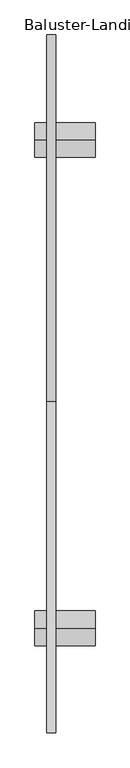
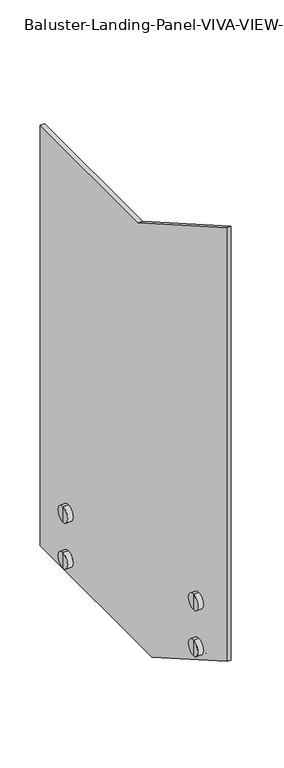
"""IFC4 building model written with IfcOpenShell, lengths in millimetres: railing geometry, Baluster-Landing-Panel-VIVA-VIEW-Upper : Standard_Glass."""

from ifc_helpers import new_model, si_unit, frame, origin, place, context, project, spatial, polyline, circle_curve, outline, extrude, source, transform, mapped, element, save
from ifc_brep_helpers import plane_surface, cylinder_surface, advanced_brep


def baluster_landing_panel_viva_view_upper_standard_glass_68725872(model_context):
    return source(origin(), model_context, "Body", "SolidModel", [
        advanced_brep(
        [(14.1452292, 152.4, -161.189208), (14.1452292, 152.4, -135.789208), (14.1452292, 152.4, -110.389208), (31.6077292, 152.4, -161.189208), (31.6077292, 152.4, -110.389208), (31.6077292, 152.4, -141.504208), (31.6077292, 152.4, -130.074208), (44.3077292, 152.4, -141.504208), (44.3077292, 152.4, -130.074208), (44.3077292, 152.4, -161.189208), (44.3077292, 152.4, -110.389208), (101.4575823, 152.4, -161.189208), (101.4575823, 152.4, -110.389208), (101.4575823, 152.4, -135.789208)],
        [
            (0, 1),
            (1, 2),
            (2, 0, circle_curve(frame((14.1452292, 152.4, -135.789208), z_axis=(-1.0, 0.0, 0.0), x_axis=(0.0, 0.0, 1.0)), 25.4)),
            (0, 2, circle_curve(frame((14.1452292, 152.4, -135.789208), z_axis=(-1.0, 0.0, 0.0), x_axis=(0.0, 0.0, 1.0)), 25.4)),
            (3, 0),
            (2, 4),
            (4, 3, circle_curve(frame((31.6077292, 152.4, -135.789208), z_axis=(-1.0, 0.0, 0.0), x_axis=(0.0, 0.0, 1.0)), 25.4)),
            (3, 4, circle_curve(frame((31.6077292, 152.4, -135.789208), z_axis=(-1.0, 0.0, 0.0), x_axis=(0.0, 0.0, 1.0)), 25.4)),
            (5, 3),
            (4, 6),
            (6, 5, circle_curve(frame((31.6077292, 152.4, -135.789208), z_axis=(-1.0, 0.0, 0.0), x_axis=(0.0, 0.0, 1.0)), 5.715)),
            (5, 6, circle_curve(frame((31.6077292, 152.4, -135.789208), z_axis=(-1.0, 0.0, 0.0), x_axis=(0.0, 0.0, 1.0)), 5.715)),
            (7, 5),
            (6, 8),
            (8, 7, circle_curve(frame((44.3077292, 152.4, -135.789208), z_axis=(-1.0, 0.0, 0.0), x_axis=(0.0, 0.0, 1.0)), 5.715)),
            (7, 8, circle_curve(frame((44.3077292, 152.4, -135.789208), z_axis=(-1.0, 0.0, 0.0), x_axis=(0.0, 0.0, 1.0)), 5.715)),
            (9, 7),
            (8, 10),
            (10, 9, circle_curve(frame((44.3077292, 152.4, -135.789208), z_axis=(-1.0, 0.0, 0.0), x_axis=(0.0, 0.0, 1.0)), 25.4)),
            (9, 10, circle_curve(frame((44.3077292, 152.4, -135.789208), z_axis=(-1.0, 0.0, 0.0), x_axis=(0.0, 0.0, 1.0)), 25.4)),
            (11, 9),
            (10, 12),
            (12, 11, circle_curve(frame((101.4575823, 152.4, -135.789208), z_axis=(-1.0, 0.0, 0.0), x_axis=(0.0, 0.0, 1.0)), 25.4)),
            (11, 12, circle_curve(frame((101.4575823, 152.4, -135.789208), z_axis=(-1.0, 0.0, 0.0), x_axis=(0.0, 0.0, 1.0)), 25.4)),
            (13, 11),
            (12, 13),
        ],
        [
            plane_surface(frame((14.1452292, 152.4, -135.789208), z_axis=(-1.0, 0.0, 0.0), x_axis=(0.0, 0.0, 1.0))),
            cylinder_surface(frame((-54.1174177, 152.4, -135.789208), z_axis=(1.0, 0.0, 0.0), x_axis=(0.0, 0.0, 1.0)), 25.4),
            plane_surface(frame((31.6077292, 152.4, -135.789208), z_axis=(1.0, 0.0, 0.0), x_axis=(0.0, 0.0, 1.0))),
            cylinder_surface(frame((-54.1174177, 152.4, -135.789208), z_axis=(1.0, 0.0, 0.0), x_axis=(0.0, 0.0, 1.0)), 5.715),
            plane_surface(frame((44.3077292, 152.4, -135.789208), z_axis=(-1.0, 0.0, 0.0), x_axis=(0.0, 0.0, 1.0))),
            plane_surface(frame((101.4575823, 152.4, -135.789208), z_axis=(1.0, 0.0, 0.0), x_axis=(0.0, 0.0, 1.0))),
        ],
        [
            (0, [[1, 2, 3]]),
            (0, [[-2, -1, 4]]),
            (1, [[5, -3, 6, 7]]),
            (1, [[-6, -4, -5, 8]]),
            (2, [[9, -7, 10, 11]]),
            (2, [[-10, -8, -9, 12]]),
            (3, [[13, -11, 14, 15]]),
            (3, [[-14, -12, -13, 16]]),
            (4, [[17, -15, 18, 19]]),
            (4, [[-18, -16, -17, 20]]),
            (1, [[21, -19, 22, 23]]),
            (1, [[-22, -20, -21, 24]]),
            (5, [[25, -23, 26]]),
            (5, [[-26, -24, -25]]),
        ],
    ),
        advanced_brep(
        [(31.6077292, 152.4, 10.895792), (31.6077292, 152.4, -8.789208), (31.6077292, 152.4, 42.010792), (31.6077292, 152.4, 22.325792), (44.3077292, 152.4, 10.895792), (44.3077292, 152.4, 22.325792), (44.3077292, 152.4, -8.789208), (44.3077292, 152.4, 42.010792), (101.4575823, 152.4, -8.789208), (101.4575823, 152.4, 42.010792), (101.4575823, 152.4, 16.610792), (14.1452292, 152.4, -8.789208), (14.1452292, 152.4, 16.610792), (14.1452292, 152.4, 42.010792)],
        [
            (0, 1),
            (1, 2, circle_curve(frame((31.6077292, 152.4, 16.610792), z_axis=(1.0, 0.0, 0.0), x_axis=(0.0, 0.0, 1.0)), 25.4)),
            (2, 3),
            (3, 0, circle_curve(frame((31.6077292, 152.4, 16.610792), z_axis=(-1.0, 0.0, 0.0), x_axis=(0.0, 0.0, 1.0)), 5.715)),
            (2, 1, circle_curve(frame((31.6077292, 152.4, 16.610792), z_axis=(1.0, 0.0, 0.0), x_axis=(0.0, 0.0, 1.0)), 25.4)),
            (0, 3, circle_curve(frame((31.6077292, 152.4, 16.610792), z_axis=(-1.0, 0.0, 0.0), x_axis=(0.0, 0.0, 1.0)), 5.715)),
            (4, 0),
            (3, 5),
            (5, 4, circle_curve(frame((44.3077292, 152.4, 16.610792), z_axis=(-1.0, 0.0, 0.0), x_axis=(0.0, 0.0, 1.0)), 5.715)),
            (4, 5, circle_curve(frame((44.3077292, 152.4, 16.610792), z_axis=(-1.0, 0.0, 0.0), x_axis=(0.0, 0.0, 1.0)), 5.715)),
            (6, 4),
            (5, 7),
            (7, 6, circle_curve(frame((44.3077292, 152.4, 16.610792), z_axis=(-1.0, 0.0, 0.0), x_axis=(0.0, 0.0, 1.0)), 25.4)),
            (6, 7, circle_curve(frame((44.3077292, 152.4, 16.610792), z_axis=(-1.0, 0.0, 0.0), x_axis=(0.0, 0.0, 1.0)), 25.4)),
            (8, 6),
            (7, 9),
            (9, 8, circle_curve(frame((101.4575823, 152.4, 16.610792), z_axis=(-1.0, 0.0, 0.0), x_axis=(0.0, 0.0, 1.0)), 25.4)),
            (8, 9, circle_curve(frame((101.4575823, 152.4, 16.610792), z_axis=(-1.0, 0.0, 0.0), x_axis=(0.0, 0.0, 1.0)), 25.4)),
            (10, 8),
            (9, 10),
            (11, 12),
            (12, 13),
            (13, 11, circle_curve(frame((14.1452292, 152.4, 16.610792), z_axis=(-1.0, 0.0, 0.0), x_axis=(0.0, 0.0, 1.0)), 25.4)),
            (11, 13, circle_curve(frame((14.1452292, 152.4, 16.610792), z_axis=(-1.0, 0.0, 0.0), x_axis=(0.0, 0.0, 1.0)), 25.4)),
            (1, 11),
            (13, 2),
        ],
        [
            plane_surface(frame((31.6077292, 152.4, 16.610792), z_axis=(1.0, 0.0, 0.0), x_axis=(0.0, 0.0, 1.0))),
            cylinder_surface(frame((-54.1174177, 152.4, 16.610792), z_axis=(1.0, 0.0, 0.0), x_axis=(0.0, 0.0, 1.0)), 5.715),
            plane_surface(frame((44.3077292, 152.4, 16.610792), z_axis=(-1.0, 0.0, 0.0), x_axis=(0.0, 0.0, 1.0))),
            cylinder_surface(frame((-54.1174177, 152.4, 16.610792), z_axis=(1.0, 0.0, 0.0), x_axis=(0.0, 0.0, 1.0)), 25.4),
            plane_surface(frame((101.4575823, 152.4, 16.610792), z_axis=(1.0, 0.0, 0.0), x_axis=(0.0, 0.0, 1.0))),
            plane_surface(frame((14.1452292, 152.4, 16.610792), z_axis=(-1.0, 0.0, 0.0), x_axis=(0.0, 0.0, 1.0))),
        ],
        [
            (0, [[1, 2, 3, 4]]),
            (0, [[-3, 5, -1, 6]]),
            (1, [[7, -4, 8, 9]]),
            (1, [[-8, -6, -7, 10]]),
            (2, [[11, -9, 12, 13]]),
            (2, [[-12, -10, -11, 14]]),
            (3, [[15, -13, 16, 17]]),
            (3, [[-16, -14, -15, 18]]),
            (4, [[19, -17, 20]]),
            (4, [[-20, -18, -19]]),
            (5, [[21, 22, 23]]),
            (5, [[-22, -21, 24]]),
            (3, [[25, -23, 26, -2]]),
            (3, [[-26, -24, -25, -5]]),
        ],
    ),
        advanced_brep(
        [(14.1452292, 861.6322056, -300.889208), (14.1452292, 861.6322056, -275.489208), (14.1452292, 861.6322056, -250.089208), (31.6077292, 861.6322056, -300.889208), (31.6077292, 861.6322056, -250.089208), (31.6077292, 861.6322056, -281.204208), (31.6077292, 861.6322056, -269.774208), (44.3077292, 861.6322056, -281.204208), (44.3077292, 861.6322056, -269.774208), (44.3077292, 861.6322056, -300.889208), (44.3077292, 861.6322056, -250.089208), (101.4575823, 861.6322056, -300.889208), (101.4575823, 861.6322056, -250.089208), (101.4575823, 861.6322056, -275.489208)],
        [
            (0, 1),
            (1, 2),
            (2, 0, circle_curve(frame((14.1452292, 861.6322056, -275.489208), z_axis=(-1.0, 0.0, 0.0), x_axis=(0.0, 0.0, 1.0)), 25.4)),
            (0, 2, circle_curve(frame((14.1452292, 861.6322056, -275.489208), z_axis=(-1.0, 0.0, 0.0), x_axis=(0.0, 0.0, 1.0)), 25.4)),
            (3, 0),
            (2, 4),
            (4, 3, circle_curve(frame((31.6077292, 861.6322056, -275.489208), z_axis=(-1.0, 0.0, 0.0), x_axis=(0.0, 0.0, 1.0)), 25.4)),
            (3, 4, circle_curve(frame((31.6077292, 861.6322056, -275.489208), z_axis=(-1.0, 0.0, 0.0), x_axis=(0.0, 0.0, 1.0)), 25.4)),
            (5, 3),
            (4, 6),
            (6, 5, circle_curve(frame((31.6077292, 861.6322056, -275.489208), z_axis=(-1.0, 0.0, 0.0), x_axis=(0.0, 0.0, 1.0)), 5.715)),
            (5, 6, circle_curve(frame((31.6077292, 861.6322056, -275.489208), z_axis=(-1.0, 0.0, 0.0), x_axis=(0.0, 0.0, 1.0)), 5.715)),
            (7, 5),
            (6, 8),
            (8, 7, circle_curve(frame((44.3077292, 861.6322056, -275.489208), z_axis=(-1.0, 0.0, 0.0), x_axis=(0.0, 0.0, 1.0)), 5.715)),
            (7, 8, circle_curve(frame((44.3077292, 861.6322056, -275.489208), z_axis=(-1.0, 0.0, 0.0), x_axis=(0.0, 0.0, 1.0)), 5.715)),
            (9, 7),
            (8, 10),
            (10, 9, circle_curve(frame((44.3077292, 861.6322056, -275.489208), z_axis=(-1.0, 0.0, 0.0), x_axis=(0.0, 0.0, 1.0)), 25.4)),
            (9, 10, circle_curve(frame((44.3077292, 861.6322056, -275.489208), z_axis=(-1.0, 0.0, 0.0), x_axis=(0.0, 0.0, 1.0)), 25.4)),
            (11, 9),
            (10, 12),
            (12, 11, circle_curve(frame((101.4575823, 861.6322056, -275.489208), z_axis=(-1.0, 0.0, 0.0), x_axis=(0.0, 0.0, 1.0)), 25.4)),
            (11, 12, circle_curve(frame((101.4575823, 861.6322056, -275.489208), z_axis=(-1.0, 0.0, 0.0), x_axis=(0.0, 0.0, 1.0)), 25.4)),
            (13, 11),
            (12, 13),
        ],
        [
            plane_surface(frame((14.1452292, 861.6322056, -275.489208), z_axis=(-1.0, 0.0, 0.0), x_axis=(0.0, 0.0, 1.0))),
            cylinder_surface(frame((-54.1174177, 861.6322056, -275.489208), z_axis=(1.0, 0.0, 0.0), x_axis=(0.0, 0.0, 1.0)), 25.4),
            plane_surface(frame((31.6077292, 861.6322056, -275.489208), z_axis=(1.0, 0.0, 0.0), x_axis=(0.0, 0.0, 1.0))),
            cylinder_surface(frame((-54.1174177, 861.6322056, -275.489208), z_axis=(1.0, 0.0, 0.0), x_axis=(0.0, 0.0, 1.0)), 5.715),
            plane_surface(frame((44.3077292, 861.6322056, -275.489208), z_axis=(-1.0, 0.0, 0.0), x_axis=(0.0, 0.0, 1.0))),
            plane_surface(frame((101.4575823, 861.6322056, -275.489208), z_axis=(1.0, 0.0, 0.0), x_axis=(0.0, 0.0, 1.0))),
        ],
        [
            (0, [[1, 2, 3]]),
            (0, [[-2, -1, 4]]),
            (1, [[5, -3, 6, 7]]),
            (1, [[-6, -4, -5, 8]]),
            (2, [[9, -7, 10, 11]]),
            (2, [[-10, -8, -9, 12]]),
            (3, [[13, -11, 14, 15]]),
            (3, [[-14, -12, -13, 16]]),
            (4, [[17, -15, 18, 19]]),
            (4, [[-18, -16, -17, 20]]),
            (1, [[21, -19, 22, 23]]),
            (1, [[-22, -20, -21, 24]]),
            (5, [[25, -23, 26]]),
            (5, [[-26, -24, -25]]),
        ],
    ),
        advanced_brep(
        [(31.6077292, 861.6322056, -128.804208), (31.6077292, 861.6322056, -148.489208), (31.6077292, 861.6322056, -97.689208), (31.6077292, 861.6322056, -117.374208), (44.3077292, 861.6322056, -128.804208), (44.3077292, 861.6322056, -117.374208), (44.3077292, 861.6322056, -148.489208), (44.3077292, 861.6322056, -97.689208), (101.4575823, 861.6322056, -148.489208), (101.4575823, 861.6322056, -97.689208), (101.4575823, 861.6322056, -123.089208), (14.1452292, 861.6322056, -148.489208), (14.1452292, 861.6322056, -123.089208), (14.1452292, 861.6322056, -97.689208)],
        [
            (0, 1),
            (1, 2, circle_curve(frame((31.6077292, 861.6322056, -123.089208), z_axis=(1.0, 0.0, 0.0), x_axis=(0.0, 0.0, 1.0)), 25.4)),
            (2, 3),
            (3, 0, circle_curve(frame((31.6077292, 861.6322056, -123.089208), z_axis=(-1.0, 0.0, 0.0), x_axis=(0.0, 0.0, 1.0)), 5.715)),
            (2, 1, circle_curve(frame((31.6077292, 861.6322056, -123.089208), z_axis=(1.0, 0.0, 0.0), x_axis=(0.0, 0.0, 1.0)), 25.4)),
            (0, 3, circle_curve(frame((31.6077292, 861.6322056, -123.089208), z_axis=(-1.0, 0.0, 0.0), x_axis=(0.0, 0.0, 1.0)), 5.715)),
            (4, 0),
            (3, 5),
            (5, 4, circle_curve(frame((44.3077292, 861.6322056, -123.089208), z_axis=(-1.0, 0.0, 0.0), x_axis=(0.0, 0.0, 1.0)), 5.715)),
            (4, 5, circle_curve(frame((44.3077292, 861.6322056, -123.089208), z_axis=(-1.0, 0.0, 0.0), x_axis=(0.0, 0.0, 1.0)), 5.715)),
            (6, 4),
            (5, 7),
            (7, 6, circle_curve(frame((44.3077292, 861.6322056, -123.089208), z_axis=(-1.0, 0.0, 0.0), x_axis=(0.0, 0.0, 1.0)), 25.4)),
            (6, 7, circle_curve(frame((44.3077292, 861.6322056, -123.089208), z_axis=(-1.0, 0.0, 0.0), x_axis=(0.0, 0.0, 1.0)), 25.4)),
            (8, 6),
            (7, 9),
            (9, 8, circle_curve(frame((101.4575823, 861.6322056, -123.089208), z_axis=(-1.0, 0.0, 0.0), x_axis=(0.0, 0.0, 1.0)), 25.4)),
            (8, 9, circle_curve(frame((101.4575823, 861.6322056, -123.089208), z_axis=(-1.0, 0.0, 0.0), x_axis=(0.0, 0.0, 1.0)), 25.4)),
            (10, 8),
            (9, 10),
            (11, 12),
            (12, 13),
            (13, 11, circle_curve(frame((14.1452292, 861.6322056, -123.089208), z_axis=(-1.0, 0.0, 0.0), x_axis=(0.0, 0.0, 1.0)), 25.4)),
            (11, 13, circle_curve(frame((14.1452292, 861.6322056, -123.089208), z_axis=(-1.0, 0.0, 0.0), x_axis=(0.0, 0.0, 1.0)), 25.4)),
            (1, 11),
            (13, 2),
        ],
        [
            plane_surface(frame((31.6077292, 861.6322056, -123.089208), z_axis=(1.0, 0.0, 0.0), x_axis=(0.0, 0.0, 1.0))),
            cylinder_surface(frame((-54.1174177, 861.6322056, -123.089208), z_axis=(1.0, 0.0, 0.0), x_axis=(0.0, 0.0, 1.0)), 5.715),
            plane_surface(frame((44.3077292, 861.6322056, -123.089208), z_axis=(-1.0, 0.0, 0.0), x_axis=(0.0, 0.0, 1.0))),
            cylinder_surface(frame((-54.1174177, 861.6322056, -123.089208), z_axis=(1.0, 0.0, 0.0), x_axis=(0.0, 0.0, 1.0)), 25.4),
            plane_surface(frame((101.4575823, 861.6322056, -123.089208), z_axis=(1.0, 0.0, 0.0), x_axis=(0.0, 0.0, 1.0))),
            plane_surface(frame((14.1452292, 861.6322056, -123.089208), z_axis=(-1.0, 0.0, 0.0), x_axis=(0.0, 0.0, 1.0))),
        ],
        [
            (0, [[1, 2, 3, 4]]),
            (0, [[-3, 5, -1, 6]]),
            (1, [[7, -4, 8, 9]]),
            (1, [[-8, -6, -7, 10]]),
            (2, [[11, -9, 12, 13]]),
            (2, [[-12, -10, -11, 14]]),
            (3, [[15, -13, 16, 17]]),
            (3, [[-16, -14, -15, 18]]),
            (4, [[19, -17, 20]]),
            (4, [[-20, -18, -19]]),
            (5, [[21, 22, 23]]),
            (5, [[-22, -21, 24]]),
            (3, [[25, -23, 26, -2]]),
            (3, [[-26, -24, -25, -5]]),
        ],
    ),
        extrude(outline(polyline([(481.6709032, 1067.6292413), (1014.0322056, 1067.6292413), (1014.0322056, -326.289208), (405.6277548, -326.289208), (0.0, -94.5477587), (0.0, 1342.8153248), (481.6709032, 1067.6292413)])), frame((31.6077292, 0.0, 0.0), z_axis=(1.0, 0.0, 0.0), x_axis=(0.0, 1.0, 0.0)), (0.0, 0.0, 1.0), 12.7),
    ])


if __name__ == "__main__":
    model = new_model("IFC4")
    model_context = context("Model", 3, world=origin())
    ifc_project = project(units=[si_unit("LENGTHUNIT", "METRE", prefix="MILLI")], contexts=[model_context])
    site = spatial("IfcSite", under=ifc_project)
    building = spatial("IfcBuilding", under=site)
    placement = place(None, origin())
    baluster_landing_panel_viva_view_upper_standard_glass_shape = baluster_landing_panel_viva_view_upper_standard_glass_68725872(model_context)
    element("IfcRailing", 1, ObjectType="Baluster-Landing-Panel-VIVA-VIEW-Upper : Standard_Glass", at=placement, inside=building, context=model_context, shape_type="MappedRepresentation", body=[
        mapped(baluster_landing_panel_viva_view_upper_standard_glass_shape, transform((0.0, 0.0, 0.0), x_axis=(1.0, 0.0, 0.0), y_axis=(0.0, 1.0, 0.0), z_axis=(0.0, 0.0, 1.0))),
    ])
    save(model, "model.ifc")
